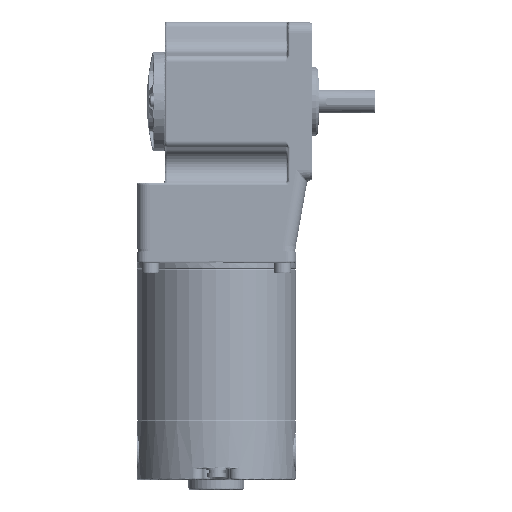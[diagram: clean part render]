
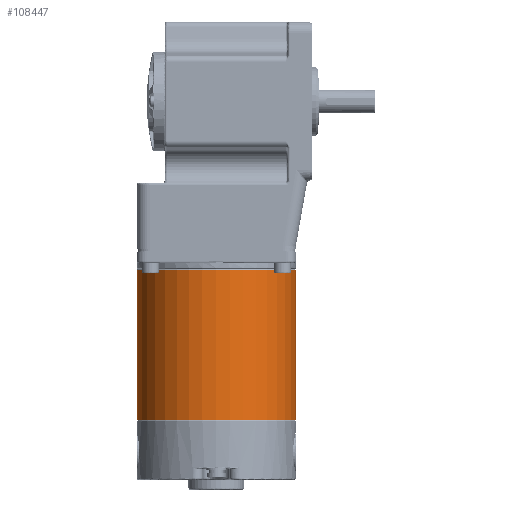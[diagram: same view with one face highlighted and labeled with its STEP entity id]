
A CAD part, front view. The second image highlights one B-rep face of the part: STEP entity #108447.
In plain terms, the highlighted cylindrical face has radius 40 mm (diameter 80 mm), a partial arc.
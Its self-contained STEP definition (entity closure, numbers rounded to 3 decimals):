
#3038 = ORIENTED_EDGE ( 'NONE', *, *, #15485, .T. ) ;
#7078 = CIRCLE ( 'NONE', #124911, 40. ) ;
#13336 = CARTESIAN_POINT ( 'NONE',  ( 0., 0.3, 40. ) ) ;
#15278 = VECTOR ( 'NONE', #47275, 1000. ) ;
#15485 = EDGE_CURVE ( 'NONE', #44037, #48187, #129203, .T. ) ;
#17457 = DIRECTION ( 'NONE',  ( 0., 0., 1. ) ) ;
#20683 = DIRECTION ( 'NONE',  ( 0., 0., 1. ) ) ;
#25782 = AXIS2_PLACEMENT_3D ( 'NONE', #72437, #80892, #20683 ) ;
#30033 = EDGE_LOOP ( 'NONE', ( #80842, #42839, #59077, #124326, #3038 ) ) ;
#33115 = EDGE_CURVE ( 'NONE', #116059, #112289, #128882, .T. ) ;
#33411 = CARTESIAN_POINT ( 'NONE',  ( 0., 75.7, -40. ) ) ;
#39698 = AXIS2_PLACEMENT_3D ( 'NONE', #91718, #81967, #131101 ) ;
#41245 = CARTESIAN_POINT ( 'NONE',  ( 0., 0., 40. ) ) ;
#42839 = ORIENTED_EDGE ( 'NONE', *, *, #54619, .T. ) ;
#44037 = VERTEX_POINT ( 'NONE', #99911 ) ;
#44312 = AXIS2_PLACEMENT_3D ( 'NONE', #120094, #78974, #17457 ) ;
#47275 = DIRECTION ( 'NONE',  ( 0., 1., 0. ) ) ;
#48187 = VERTEX_POINT ( 'NONE', #33411 ) ;
#48891 = FACE_OUTER_BOUND ( 'NONE', #30033, .T. ) ;
#52147 = LINE ( 'NONE', #41245, #58507 ) ;
#54619 = EDGE_CURVE ( 'NONE', #120443, #116059, #7078, .T. ) ;
#58264 = CARTESIAN_POINT ( 'NONE',  ( 0., 0., -40. ) ) ;
#58507 = VECTOR ( 'NONE', #60293, 1000. ) ;
#59077 = ORIENTED_EDGE ( 'NONE', *, *, #33115, .T. ) ;
#60293 = DIRECTION ( 'NONE',  ( 0., 1., 0. ) ) ;
#72437 = CARTESIAN_POINT ( 'NONE',  ( 0., 75.7, 0. ) ) ;
#78974 = DIRECTION ( 'NONE',  ( 0., 1., 0. ) ) ;
#80842 = ORIENTED_EDGE ( 'NONE', *, *, #82866, .F. ) ;
#80892 = DIRECTION ( 'NONE',  ( 0., -1., 0. ) ) ;
#81967 = DIRECTION ( 'NONE',  ( 0., 1., 0. ) ) ;
#82866 = EDGE_CURVE ( 'NONE', #120443, #48187, #129312, .T. ) ;
#91718 = CARTESIAN_POINT ( 'NONE',  ( 0., 0., 0. ) ) ;
#91930 = CARTESIAN_POINT ( 'NONE',  ( 0., 0.3, -40. ) ) ;
#92019 = EDGE_CURVE ( 'NONE', #112289, #44037, #52147, .T. ) ;
#95117 = CARTESIAN_POINT ( 'NONE',  ( -40., 0.3, 0. ) ) ;
#99911 = CARTESIAN_POINT ( 'NONE',  ( 0., 75.7, 40. ) ) ;
#108447 = ADVANCED_FACE ( 'NONE', ( #48891 ), #129641, .T. ) ;
#109617 = DIRECTION ( 'NONE',  ( 0., 0., 1. ) ) ;
#112289 = VERTEX_POINT ( 'NONE', #13336 ) ;
#116059 = VERTEX_POINT ( 'NONE', #95117 ) ;
#120094 = CARTESIAN_POINT ( 'NONE',  ( 0., 0.3, 0. ) ) ;
#120443 = VERTEX_POINT ( 'NONE', #91930 ) ;
#121015 = DIRECTION ( 'NONE',  ( 0., 1., 0. ) ) ;
#124326 = ORIENTED_EDGE ( 'NONE', *, *, #92019, .T. ) ;
#124911 = AXIS2_PLACEMENT_3D ( 'NONE', #130766, #121015, #109617 ) ;
#128882 = CIRCLE ( 'NONE', #44312, 40. ) ;
#129203 = CIRCLE ( 'NONE', #25782, 40. ) ;
#129312 = LINE ( 'NONE', #58264, #15278 ) ;
#129641 = CYLINDRICAL_SURFACE ( 'NONE', #39698, 40. ) ;
#130766 = CARTESIAN_POINT ( 'NONE',  ( 0., 0.3, 0. ) ) ;
#131101 = DIRECTION ( 'NONE',  ( 0., 0., 1. ) ) ;
